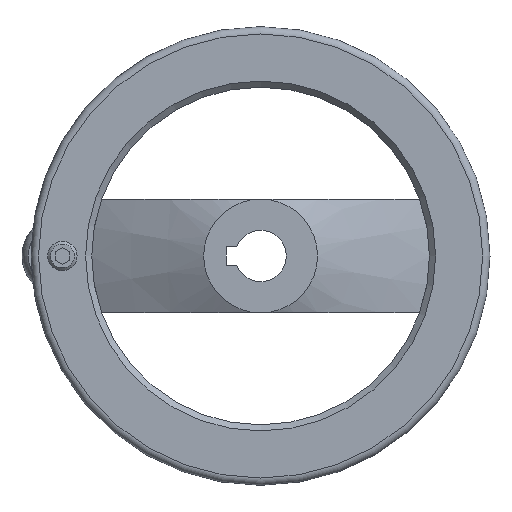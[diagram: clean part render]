
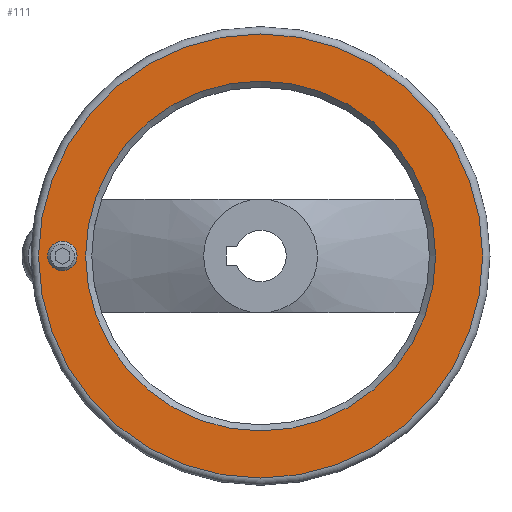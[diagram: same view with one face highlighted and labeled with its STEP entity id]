
A CAD part, left-side view. The second image highlights one B-rep face of the part: STEP entity #111.
In plain terms, the highlighted planar face has unit normal (-1, 0, 0).
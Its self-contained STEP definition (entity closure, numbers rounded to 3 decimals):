
#111 = ADVANCED_FACE( '', ( #209, #210, #211 ), #212, .T. );
#209 = FACE_OUTER_BOUND( '', #317, .T. );
#210 = FACE_BOUND( '', #318, .T. );
#211 = FACE_BOUND( '', #319, .T. );
#212 = PLANE( '', #320 );
#317 = EDGE_LOOP( '', ( #577 ) );
#318 = EDGE_LOOP( '', ( #578 ) );
#319 = EDGE_LOOP( '', ( #579 ) );
#320 = AXIS2_PLACEMENT_3D( '', #580, #581, #582 );
#577 = ORIENTED_EDGE( '', *, *, #693, .T. );
#578 = ORIENTED_EDGE( '', *, *, #656, .T. );
#579 = ORIENTED_EDGE( '', *, *, #694, .F. );
#580 = CARTESIAN_POINT( '', ( 18., -47.667, 0. ) );
#581 = DIRECTION( '', ( -1., 0., 0. ) );
#582 = DIRECTION( '', ( 0., 0., 1. ) );
#656 = EDGE_CURVE( '', #780, #780, #781, .T. );
#693 = EDGE_CURVE( '', #836, #836, #837, .T. );
#694 = EDGE_CURVE( '', #838, #838, #839, .T. );
#780 = VERTEX_POINT( '', #1067 );
#781 = CIRCLE( '', #1068, 4. );
#836 = VERTEX_POINT( '', #1137 );
#837 = CIRCLE( '', #1138, 60.5 );
#838 = VERTEX_POINT( '', #1139 );
#839 = CIRCLE( '', #1140, 47.667 );
#1067 = CARTESIAN_POINT( '', ( 18., 54., -4. ) );
#1068 = AXIS2_PLACEMENT_3D( '', #1194, #1195, #1196 );
#1137 = CARTESIAN_POINT( '', ( 18., 0., 60.5 ) );
#1138 = AXIS2_PLACEMENT_3D( '', #1274, #1275, #1276 );
#1139 = CARTESIAN_POINT( '', ( 18., 0., 47.667 ) );
#1140 = AXIS2_PLACEMENT_3D( '', #1277, #1278, #1279 );
#1194 = CARTESIAN_POINT( '', ( 18., 54., 0. ) );
#1195 = DIRECTION( '', ( 1., 0., 0. ) );
#1196 = DIRECTION( '', ( 0., 0., -1. ) );
#1274 = CARTESIAN_POINT( '', ( 18., 0., 0. ) );
#1275 = DIRECTION( '', ( -1., 0., 0. ) );
#1276 = DIRECTION( '', ( 0., 0., 1. ) );
#1277 = CARTESIAN_POINT( '', ( 18., 0., 0. ) );
#1278 = DIRECTION( '', ( -1., 0., 0. ) );
#1279 = DIRECTION( '', ( 0., 0., 1. ) );
